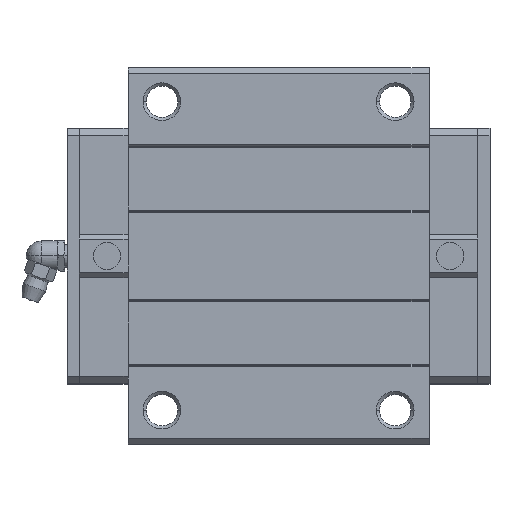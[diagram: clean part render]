
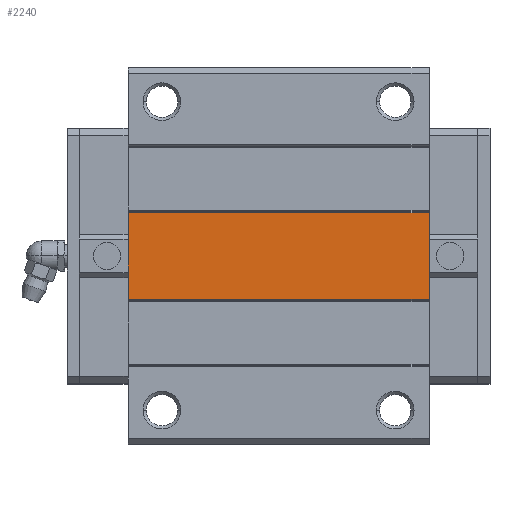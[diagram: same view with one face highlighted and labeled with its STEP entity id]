
A CAD part, top view. The second image highlights one B-rep face of the part: STEP entity #2240.
In plain terms, the highlighted planar face has unit normal (0, 0, 1).
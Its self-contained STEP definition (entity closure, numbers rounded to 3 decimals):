
#2179=CARTESIAN_POINT('POINT142',(96.2,-11.5,
   40.5));
#2180=VERTEX_POINT('VERTEX142',#2179);
#2187=CARTESIAN_POINT('POINT143',(16.2,-11.5,
   40.5));
#2188=VERTEX_POINT('VERTEX143',#2187);
#2189=CARTESIAN_POINT('POS216',(16.2,-11.5,
   40.5));
#2190=DIRECTION('DIR310',(1.,0.,0.));
#2191=VECTOR('VEC122',#2190,1.);
#2192=LINE('STRAIGHT122',#2189,#2191);
#2193=EDGE_CURVE('EDGE210',#2188,#2180,#2192,.T.);
#2210=CARTESIAN_POINT('POINT144',(96.2,11.5,40.5));
#2211=VERTEX_POINT('VERTEX144',#2210);
#2212=CARTESIAN_POINT('POS219',(96.2,0.,40.5));
#2213=DIRECTION('DIR314',(0.,1.,0.));
#2214=VECTOR('VEC124',#2213,1.);
#2215=LINE('STRAIGHT124',#2212,#2214);
#2216=EDGE_CURVE('EDGE212',#2180,#2211,#2215,.T.);
#2217=ORIENTED_EDGE('COEDGE360',*,*,#2216,.T.);
#2218=CARTESIAN_POINT('POINT145',(16.2,11.5,40.5));
#2219=VERTEX_POINT('VERTEX145',#2218);
#2220=CARTESIAN_POINT('POS220',(16.2,11.5,40.5));
#2221=DIRECTION('DIR315',(1.,0.,0.));
#2222=VECTOR('VEC125',#2221,1.);
#2223=LINE('STRAIGHT125',#2220,#2222);
#2224=EDGE_CURVE('EDGE213',#2219,#2211,#2223,.T.);
#2225=ORIENTED_EDGE('COEDGE361',*,*,#2224,.F.);
#2226=CARTESIAN_POINT('POS221',(16.2,0.,40.5));
#2227=DIRECTION('DIR316',(0.,1.,0.));
#2228=VECTOR('VEC126',#2227,1.);
#2229=LINE('STRAIGHT126',#2226,#2228);
#2230=EDGE_CURVE('EDGE214',#2188,#2219,#2229,.T.);
#2231=ORIENTED_EDGE('COEDGE362',*,*,#2230,.F.);
#2232=ORIENTED_EDGE('COEDGE363',*,*,#2193,.T.);
#2233=EDGE_LOOP('NONE',(#2217,#2225,#2231,#2232));
#2234=FACE_BOUND('LOOP1',#2233,.T.);
#2235=CARTESIAN_POINT('POS222',(16.2,0.,40.5));
#2236=DIRECTION('DIR317',(0.,0.,1.));
#2237=DIRECTION('DIR318',(1.,0.,0.));
#2238=AXIS2_PLACEMENT_3D('AXIS96',#2235,#2236,#2237);
#2239=PLANE('PLANE26',#2238);
#2240=ADVANCED_FACE('FACE71',(#2234),#2239,.T.);
